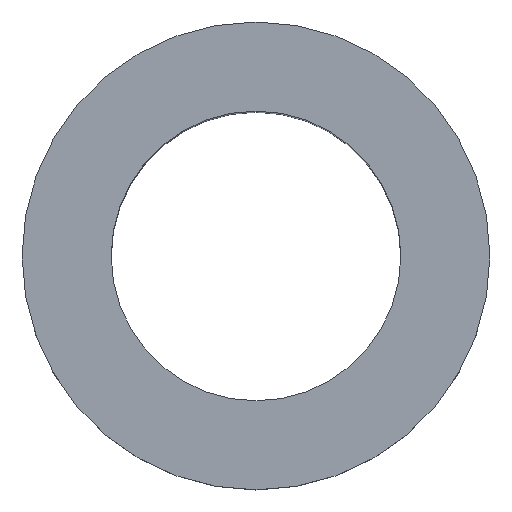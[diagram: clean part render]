
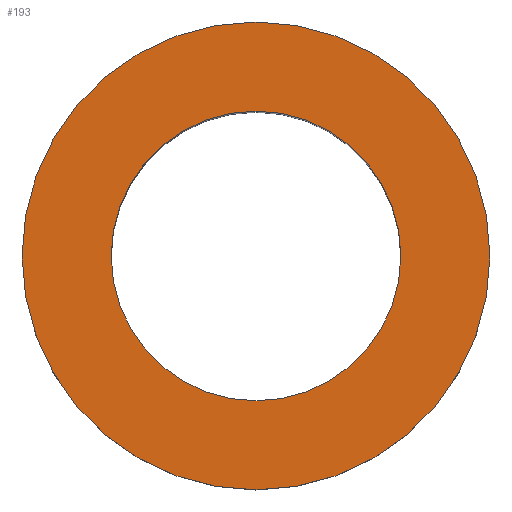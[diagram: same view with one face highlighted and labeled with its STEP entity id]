
A CAD part, top view. The second image highlights one B-rep face of the part: STEP entity #193.
In plain terms, the highlighted planar face has unit normal (0, 0, 1).
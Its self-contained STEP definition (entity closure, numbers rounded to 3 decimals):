
#193=ADVANCED_FACE('',(#223,#224),#220,.T.);
#220=PLANE('',#486);
#223=FACE_BOUND('',#229,.T.);
#224=FACE_BOUND('',#230,.T.);
#229=EDGE_LOOP('',(#259,#260));
#230=EDGE_LOOP('',(#261,#262));
#259=ORIENTED_EDGE('',*,*,#397,.T.);
#260=ORIENTED_EDGE('',*,*,#398,.T.);
#261=ORIENTED_EDGE('',*,*,#399,.F.);
#262=ORIENTED_EDGE('',*,*,#400,.F.);
#367=VERTEX_POINT('',#681);
#368=VERTEX_POINT('',#682);
#369=VERTEX_POINT('',#685);
#370=VERTEX_POINT('',#686);
#397=EDGE_CURVE('',#367,#368,#451,.T.);
#398=EDGE_CURVE('',#368,#367,#452,.T.);
#399=EDGE_CURVE('',#369,#370,#453,.T.);
#400=EDGE_CURVE('',#370,#369,#454,.T.);
#451=CIRCLE('',#482,10.5);
#452=CIRCLE('',#483,10.5);
#453=CIRCLE('',#484,6.5);
#454=CIRCLE('',#485,6.5);
#482=AXIS2_PLACEMENT_3D('',#680,#541,#542);
#483=AXIS2_PLACEMENT_3D('',#683,#543,#544);
#484=AXIS2_PLACEMENT_3D('',#684,#545,#546);
#485=AXIS2_PLACEMENT_3D('',#687,#547,#548);
#486=AXIS2_PLACEMENT_3D('',#688,#549,#550);
#541=DIRECTION('',(0.,0.,1.));
#542=DIRECTION('',(0.,1.,0.));
#543=DIRECTION('',(0.,0.,1.));
#544=DIRECTION('',(0.,-1.,0.));
#545=DIRECTION('',(0.,0.,1.));
#546=DIRECTION('',(0.,-1.,0.));
#547=DIRECTION('',(0.,0.,1.));
#548=DIRECTION('',(0.,1.,0.));
#549=DIRECTION('',(0.,0.,1.));
#550=DIRECTION('',(0.,1.,0.));
#680=CARTESIAN_POINT('',(0.,0.,3.));
#681=CARTESIAN_POINT('',(-10.5,0.,3.));
#682=CARTESIAN_POINT('',(10.5,0.,3.));
#683=CARTESIAN_POINT('',(0.,0.,3.));
#684=CARTESIAN_POINT('',(0.,0.,3.));
#685=CARTESIAN_POINT('',(6.5,0.,3.));
#686=CARTESIAN_POINT('',(-6.5,0.,3.));
#687=CARTESIAN_POINT('',(0.,0.,3.));
#688=CARTESIAN_POINT('',(0.,0.,3.));
